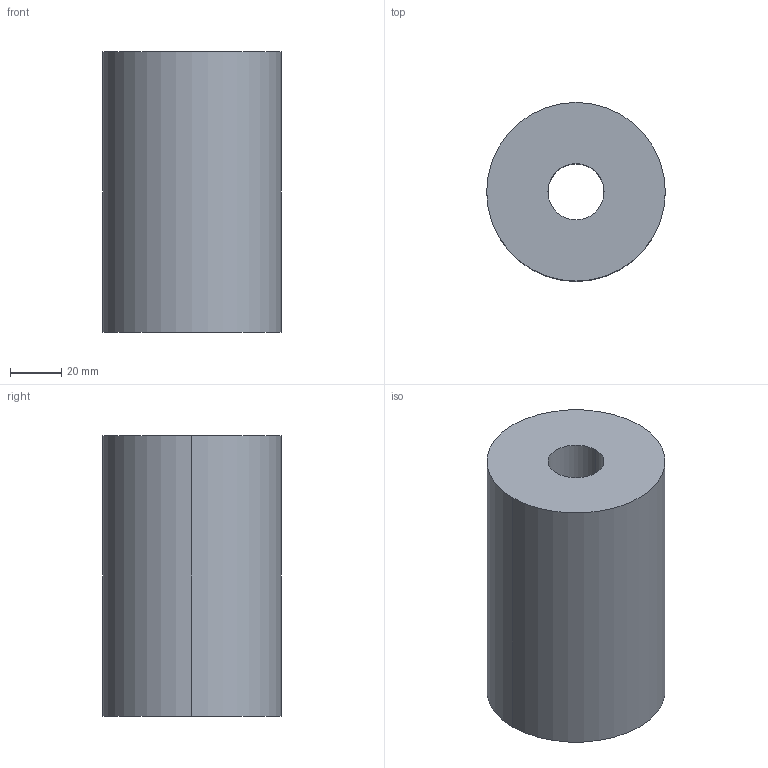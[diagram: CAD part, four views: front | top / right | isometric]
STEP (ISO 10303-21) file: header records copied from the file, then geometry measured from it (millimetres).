
FILE_DESCRIPTION(/* description */ (''),/* implementation_level */ '2;1');
FILE_NAME(/* name */ '3d_e7022110_03716_r00.stp',/* time_stamp */ '2011-01-10T14:15:49+09:00',/* author */ ('MISUMI'),/* organization */ (''),/* preprocessor_version */ 'ST-DEVELOPER v11',/* originating_system */ 'UGS - NX 5.0',/* authorisation */ '');
FILE_SCHEMA (('CONFIG_CONTROL_DESIGN'));
Length unit declared in the file: millimetre
Products named in the file (1): 3d_e7022110_03716_r00
Bounding box: 70 x 70 x 110 mm (x, y, z)
Volume: 381515 mm3; surface area: 38729.6 mm2
Topology: 1 solids, 1 shells, 6 faces, 12 edges, 8 vertices
Faces by surface type: cylinder 4, plane 2
Entity records: 254 total; most frequent: DIRECTION 34, CARTESIAN_POINT 27, ORIENTED_EDGE 24, AXIS2_PLACEMENT_3D 15, EDGE_CURVE 12, EDGE_LOOP 8, VERTEX_POINT 8, CIRCLE 8
